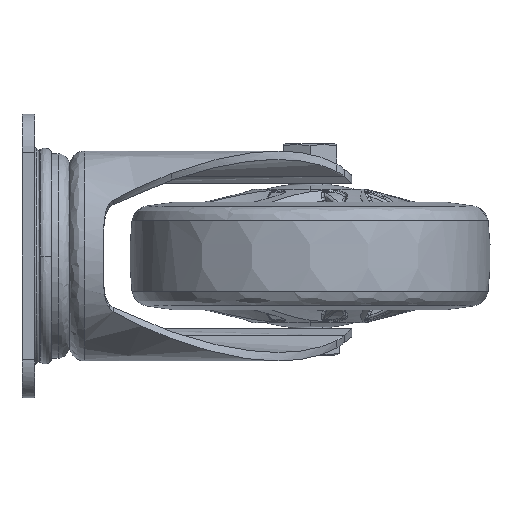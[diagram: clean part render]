
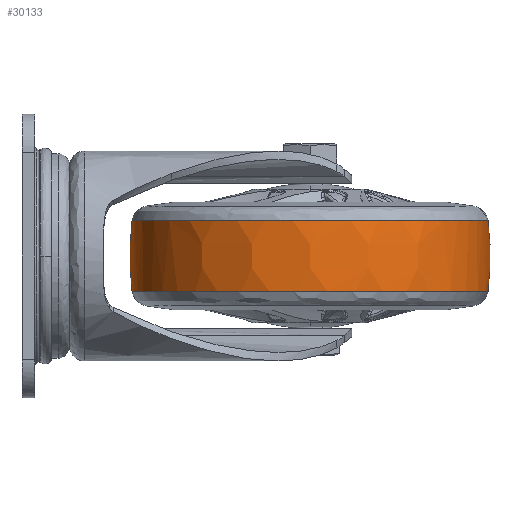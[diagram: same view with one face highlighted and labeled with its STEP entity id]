
A CAD part, left-side view. The second image highlights one B-rep face of the part: STEP entity #30133.
In plain terms, the highlighted free-form (B-spline) face has degree [3, 3] with [4, 4] control points.
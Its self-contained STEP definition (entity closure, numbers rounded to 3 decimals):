
#1788 = CARTESIAN_POINT ( 'NONE',  ( 43.001, -165.258, 4.148 ) ) ;
#3962 = ORIENTED_EDGE ( 'NONE', *, *, #20764, .T. ) ;
#4189 = CARTESIAN_POINT ( 'NONE',  ( -82.46, -38.769, 12.38 ) ) ;
#5257 = VERTEX_POINT ( 'NONE', #21238 ) ;
#5460 = CARTESIAN_POINT ( 'NONE',  ( 43.001, -164.231, 12.38 ) ) ;
#5997 = CARTESIAN_POINT ( 'NONE',  ( -84.514, -165.258, 4.148 ) ) ;
#8971 = CARTESIAN_POINT ( 'NONE',  ( 43.001, -38.769, 12.38 ) ) ;
#10707 = CIRCLE ( 'NONE', #18907, 100. ) ;
#11387 = CARTESIAN_POINT ( 'NONE',  ( 43.001, -38.769, -12.38 ) ) ;
#14108 = CARTESIAN_POINT ( 'NONE',  ( -82.46, -164.231, 12.38 ) ) ;
#16488 = CARTESIAN_POINT ( 'NONE',  ( -84.514, -165.258, -4.148 ) ) ;
#18027 = EDGE_CURVE ( 'NONE', #5257, #28197, #10707, .T. ) ;
#18907 = AXIS2_PLACEMENT_3D ( 'NONE', #55328, #24626, #59510 ) ;
#19758 = CARTESIAN_POINT ( 'NONE',  ( 43.001, -38.769, -12.38 ) ) ;
#20764 = EDGE_CURVE ( 'NONE', #5257, #47065, #31284, .T. ) ;
#21238 = CARTESIAN_POINT ( 'NONE',  ( 43.001, -38.769, 12.38 ) ) ;
#21301 = CARTESIAN_POINT ( 'NONE',  ( 43.001, -37.742, -4.148 ) ) ;
#24626 = DIRECTION ( 'NONE',  ( -1., 0., 0. ) ) ;
#25501 = CARTESIAN_POINT ( 'NONE',  ( -82.46, -38.769, 12.38 ) ) ;
#28197 = VERTEX_POINT ( 'NONE', #53771 ) ;
#28738 = CARTESIAN_POINT ( 'NONE',  ( -82.46, -38.769, -12.38 ) ) ;
#30133 = ADVANCED_FACE ( 'NONE', ( #60377 ), #34854, .T. ) ;
#30317 = CARTESIAN_POINT ( 'NONE',  ( -82.46, -164.231, -12.38 ) ) ;
#30930 = CARTESIAN_POINT ( 'NONE',  ( -82.46, -38.769, -12.38 ) ) ;
#31284 =( BOUNDED_CURVE ( )  B_SPLINE_CURVE ( 3, ( #8971, #4189, #14108, #5460 ),
 .UNSPECIFIED., .F., .T. ) 
 B_SPLINE_CURVE_WITH_KNOTS ( ( 4, 4 ),
 ( 0., 3.142 ),
 .UNSPECIFIED. ) 
 CURVE ( )  GEOMETRIC_REPRESENTATION_ITEM ( )  RATIONAL_B_SPLINE_CURVE ( ( 1., 0.333, 0.333, 1. ) ) 
 REPRESENTATION_ITEM ( '' )  );
#32775 = EDGE_CURVE ( 'NONE', #36681, #28197, #48433, .T. ) ;
#33545 = CARTESIAN_POINT ( 'NONE',  ( 43.001, -164.231, -12.38 ) ) ;
#34854 =( BOUNDED_SURFACE ( )  B_SPLINE_SURFACE ( 3, 3, ( 
 ( #35731, #50159, #25501, #40522 ),
 ( #1788, #5997, #54950, #49222 ),
 ( #55264, #16488, #45616, #21301 ),
 ( #39601, #30317, #30930, #11387 ) ),
 .UNSPECIFIED., .F., .F., .T. ) 
 B_SPLINE_SURFACE_WITH_KNOTS ( ( 4, 4 ),
 ( 4, 4 ),
 ( 0., 1. ),
 ( 0., 1. ),
 .UNSPECIFIED. ) 
 GEOMETRIC_REPRESENTATION_ITEM ( )  RATIONAL_B_SPLINE_SURFACE ( (
 ( 1., 0.333, 0.333, 1.),
 ( 0.995, 0.332, 0.332, 0.995),
 ( 0.995, 0.332, 0.332, 0.995),
 ( 1., 0.333, 0.333, 1.) ) ) 
 REPRESENTATION_ITEM ( '' )  SURFACE ( )  );
#35731 = CARTESIAN_POINT ( 'NONE',  ( 43.001, -164.231, 12.38 ) ) ;
#36681 = VERTEX_POINT ( 'NONE', #41091 ) ;
#37496 = EDGE_LOOP ( 'NONE', ( #38529, #3962, #55142, #38325 ) ) ;
#38325 = ORIENTED_EDGE ( 'NONE', *, *, #32775, .T. ) ;
#38529 = ORIENTED_EDGE ( 'NONE', *, *, #18027, .F. ) ;
#39601 = CARTESIAN_POINT ( 'NONE',  ( 43.001, -164.231, -12.38 ) ) ;
#40522 = CARTESIAN_POINT ( 'NONE',  ( 43.001, -38.769, 12.38 ) ) ;
#41091 = CARTESIAN_POINT ( 'NONE',  ( 43.001, -164.231, -12.38 ) ) ;
#41543 = DIRECTION ( 'NONE',  ( 1., 0., 0. ) ) ;
#42726 = CIRCLE ( 'NONE', #51961, 100. ) ;
#45616 = CARTESIAN_POINT ( 'NONE',  ( -84.514, -37.742, -4.148 ) ) ;
#47065 = VERTEX_POINT ( 'NONE', #50613 ) ;
#48433 =( BOUNDED_CURVE ( )  B_SPLINE_CURVE ( 3, ( #33545, #53082, #28738, #19758 ),
 .UNSPECIFIED., .F., .T. ) 
 B_SPLINE_CURVE_WITH_KNOTS ( ( 4, 4 ),
 ( 0., 3.142 ),
 .UNSPECIFIED. ) 
 CURVE ( )  GEOMETRIC_REPRESENTATION_ITEM ( )  RATIONAL_B_SPLINE_CURVE ( ( 1., 0.333, 0.333, 1. ) ) 
 REPRESENTATION_ITEM ( '' )  );
#49222 = CARTESIAN_POINT ( 'NONE',  ( 43.001, -37.742, 4.148 ) ) ;
#50159 = CARTESIAN_POINT ( 'NONE',  ( -82.46, -164.231, 12.38 ) ) ;
#50613 = CARTESIAN_POINT ( 'NONE',  ( 43.001, -164.231, 12.38 ) ) ;
#51147 = CARTESIAN_POINT ( 'NONE',  ( 43.001, -65., 0. ) ) ;
#51961 = AXIS2_PLACEMENT_3D ( 'NONE', #51147, #41543, #62577 ) ;
#53082 = CARTESIAN_POINT ( 'NONE',  ( -82.46, -164.231, -12.38 ) ) ;
#53771 = CARTESIAN_POINT ( 'NONE',  ( 43.001, -38.769, -12.38 ) ) ;
#54547 = EDGE_CURVE ( 'NONE', #47065, #36681, #42726, .T. ) ;
#54950 = CARTESIAN_POINT ( 'NONE',  ( -84.514, -37.742, 4.148 ) ) ;
#55142 = ORIENTED_EDGE ( 'NONE', *, *, #54547, .T. ) ;
#55264 = CARTESIAN_POINT ( 'NONE',  ( 43.001, -165.258, -4.148 ) ) ;
#55328 = CARTESIAN_POINT ( 'NONE',  ( 43.001, -138., 0. ) ) ;
#59510 = DIRECTION ( 'NONE',  ( 0., 0.992, 0.129 ) ) ;
#60377 = FACE_OUTER_BOUND ( 'NONE', #37496, .T. ) ;
#62577 = DIRECTION ( 'NONE',  ( 0., -0.992, 0.129 ) ) ;
